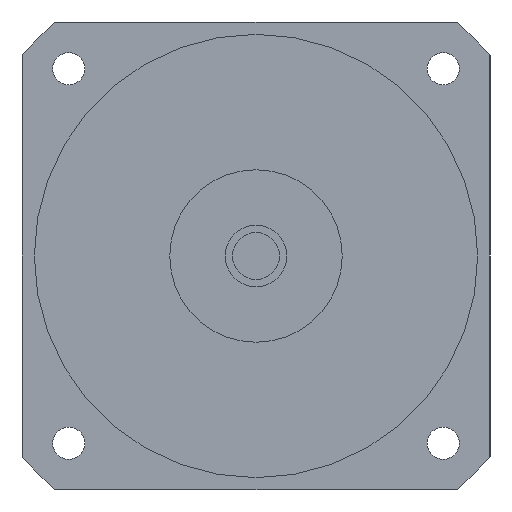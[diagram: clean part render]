
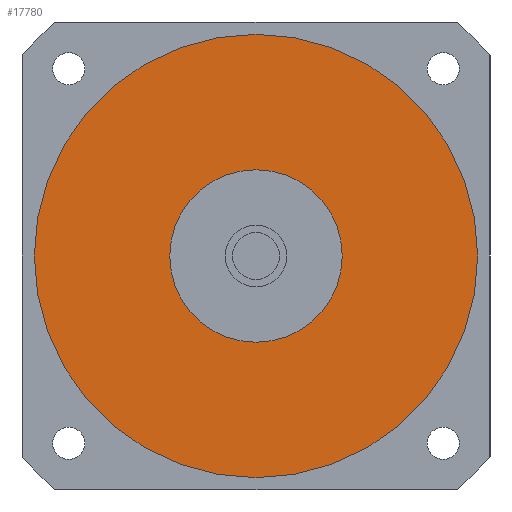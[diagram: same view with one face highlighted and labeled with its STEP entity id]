
A CAD part, left-side view. The second image highlights one B-rep face of the part: STEP entity #17780.
In plain terms, the highlighted planar face has unit normal (-1, 0, 0) as drawn and (0, 0, -1) by its records, which use the part's own axes.
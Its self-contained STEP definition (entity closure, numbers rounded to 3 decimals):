
#17200=CARTESIAN_POINT('',(90.,0.,-55.2));
#17210=VERTEX_POINT('',#17200);
#17300=CARTESIAN_POINT('',(-90.,0.,-55.2));
#17310=VERTEX_POINT('',#17300);
#17340=CARTESIAN_POINT('',(0.,0.,
-55.2));
#17350=DIRECTION('',(0.,0.,1.));
#17360=DIRECTION('',(0.,1.,0.));
#17370=AXIS2_PLACEMENT_3D('',#17340,#17350,#17360);
#17380=CIRCLE('',#17370,90.);
#17390=CARTESIAN_POINT('',(0.,90.,-55.2));
#17400=VERTEX_POINT('',#17390);
#17410=EDGE_CURVE('',#17400,#17310,#17380,.T.);
#17430=EDGE_CURVE('',#17210,#17400,#17380,.T.);
#17480=CARTESIAN_POINT('',(0.,0.,
-55.2));
#17490=DIRECTION('',(0.,0.,1.));
#17500=DIRECTION('',(-1.,0.,0.));
#17510=AXIS2_PLACEMENT_3D('',#17480,#17490,#17500);
#17520=PLANE('',#17510);
#17530=CARTESIAN_POINT('',(0.,0.,
-55.2));
#17540=DIRECTION('',(0.,0.,1.));
#17550=DIRECTION('',(0.,1.,0.));
#17560=AXIS2_PLACEMENT_3D('',#17530,#17540,#17550);
#17570=CIRCLE('',#17560,35.);
#17580=CARTESIAN_POINT('',(-35.,0.,-55.2));
#17590=VERTEX_POINT('',#17580);
#17600=CARTESIAN_POINT('',(35.,0.,-55.2));
#17610=VERTEX_POINT('',#17600);
#17620=EDGE_CURVE('',#17590,#17610,#17570,.T.);
#17630=ORIENTED_EDGE('',*,*,#17620,.T.);
#17640=CARTESIAN_POINT('',(0.,35.,-55.2));
#17650=VERTEX_POINT('',#17640);
#17660=EDGE_CURVE('',#17650,#17590,#17570,.T.);
#17670=ORIENTED_EDGE('',*,*,#17660,.T.);
#17680=EDGE_CURVE('',#17610,#17650,#17570,.T.);
#17690=ORIENTED_EDGE('',*,*,#17680,.T.);
#17700=EDGE_LOOP('',(#17690,#17670,#17630));
#17710=FACE_BOUND('',#17700,.T.);
#17720=ORIENTED_EDGE('',*,*,#17410,.F.);
#17730=EDGE_CURVE('',#17310,#17210,#17380,.T.);
#17740=ORIENTED_EDGE('',*,*,#17730,.F.);
#17750=ORIENTED_EDGE('',*,*,#17430,.F.);
#17760=EDGE_LOOP('',(#17750,#17740,#17720));
#17770=FACE_OUTER_BOUND('',#17760,.T.);
#17780=ADVANCED_FACE('',(#17710,#17770),#17520,.F.);
